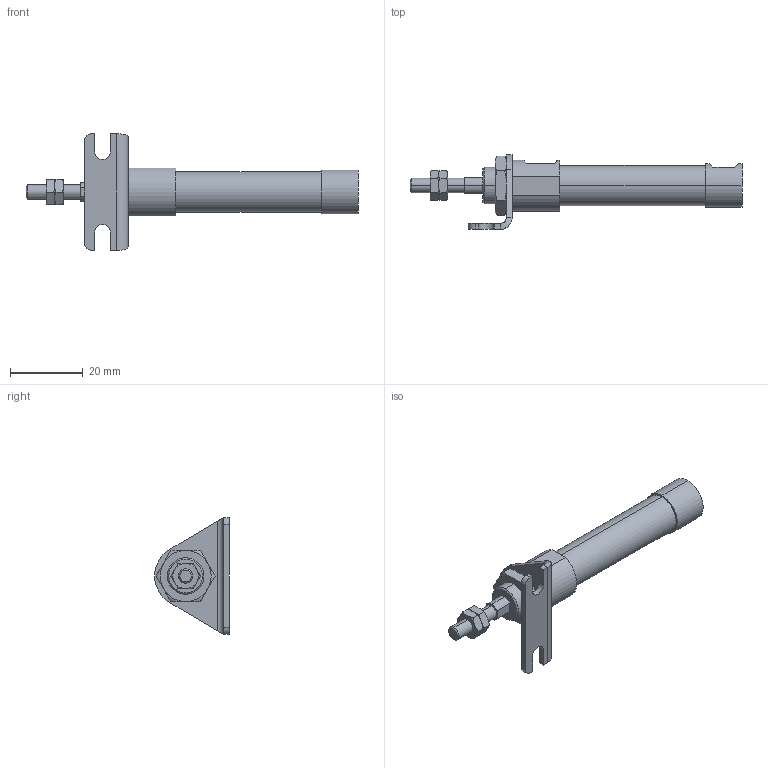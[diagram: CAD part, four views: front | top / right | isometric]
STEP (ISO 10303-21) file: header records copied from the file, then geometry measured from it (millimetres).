
FILE_DESCRIPTION (( 'STEP AP203' ), '1' );
FILE_NAME ('ZGU2-10-15-L.STEP', '2016-03-31T00:50:49', ( '' ), ( '' ), 'SwSTEP 2.0', 'SolidWorks 2014', '' );
FILE_SCHEMA (( 'CONFIG_CONTROL_DESIGN' ));
Length unit declared in the file: millimetre
Products named in the file (5): ZGU2-10-15; Z-10-L; ZGU2-10-15-L
Assembly tree (5 placements, depth 2):
  ZGU2-10-15-L
    ZGU2-10-15
    (unnamed)  x2
    (unnamed)
    Z-10-L
Bounding box: 91 x 20.5 x 32 mm (x, y, z)
Volume: 8899.5 mm3; surface area: 5518.2 mm2
Topology: 5 solids, 5 shells, 134 faces, 299 edges, 180 vertices
Faces by surface type: plane 56, torus 36, cylinder 32, cone 8, bspline 2
Entity records: 3960 total; most frequent: CARTESIAN_POINT 989, DIRECTION 511, ORIENTED_EDGE 494, EDGE_CURVE 247, AXIS2_PLACEMENT_3D 202, VERTEX_POINT 152, EDGE_LOOP 127, FACE_OUTER_BOUND 112
